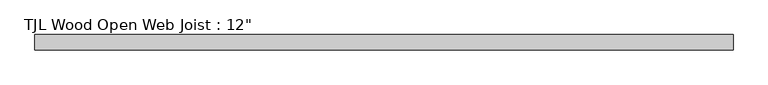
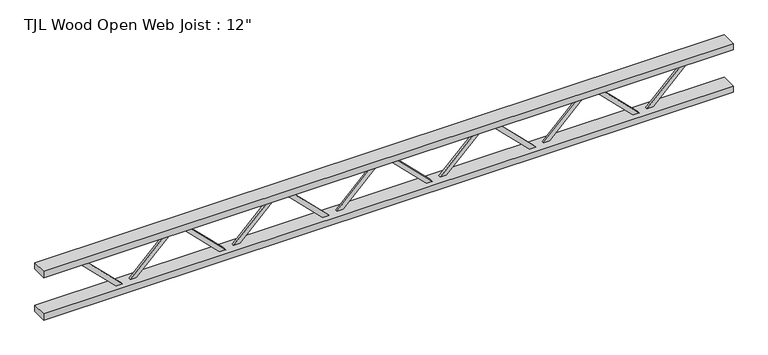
"""IFC4 building model written with IfcOpenShell, lengths in millimetres: beam geometry."""

from ifc_helpers import new_model, si_unit, frame, origin, place, context, project, spatial, polyline, outline, extrude, source, transform, mapped, element, save


def beam_852066e9(model_context):
    return source(origin(), model_context, "Body", "SweptSolid", [
        extrude(outline(polyline([(119.0625, 1212.85), (144.4625, 1212.85), (144.4625, 1194.9118146), (-119.0625, 929.7993146), (-119.0625, 884.2375), (-144.4625, 884.2375), (-144.4625, 940.2756854), (119.0625, 1205.3881854), (119.0625, 1212.85)])), frame((0.0, 0.0, 0.0), z_axis=(0.0, 1.0, 0.0), x_axis=(0.0, 0.0, 1.0)), (0.0, 0.0, 1.0), 12.7),
        extrude(outline(polyline([(144.4625, 606.425), (119.0625, 606.425), (119.0625, 613.8868146), (-144.4625, 878.9993146), (-144.4625, 935.0375), (-119.0625, 935.0375), (-119.0625, 889.4756854), (144.4625, 624.3631854), (144.4625, 606.425)])), frame((0.0, -12.7, 0.0), z_axis=(0.0, 1.0, 0.0), x_axis=(0.0, 0.0, 1.0)), (0.0, 0.0, 1.0), 12.7),
        extrude(outline(polyline([(119.0625, 606.425), (144.4625, 606.425), (144.4625, 588.4868146), (-119.0625, 323.3743146), (-119.0625, 277.8125), (-144.4625, 277.8125), (-144.4625, 333.8506854), (119.0625, 598.9631854), (119.0625, 606.425)])), frame((0.0, 0.0, 0.0), z_axis=(0.0, 1.0, 0.0), x_axis=(0.0, 0.0, 1.0)), (0.0, 0.0, 1.0), 12.7),
        extrude(outline(polyline([(144.4625, 0.0), (119.0625, 0.0), (119.0625, 7.4618146), (-144.4625, 272.5743146), (-144.4625, 328.6125), (-119.0625, 328.6125), (-119.0625, 283.0506854), (144.4625, 17.9381854), (144.4625, 0.0)])), frame((0.0, -12.7, 0.0), z_axis=(0.0, 1.0, 0.0), x_axis=(0.0, 0.0, 1.0)), (0.0, 0.0, 1.0), 12.7),
        extrude(outline(polyline([(119.0625, 0.0), (144.4625, 0.0), (144.4625, -17.9381854), (-119.0625, -283.0506854), (-119.0625, -328.6125), (-144.4625, -328.6125), (-144.4625, -272.5743146), (119.0625, -7.4618146), (119.0625, 0.0)])), frame((0.0, 0.0, 0.0), z_axis=(0.0, 1.0, 0.0), x_axis=(0.0, 0.0, 1.0)), (0.0, 0.0, 1.0), 12.7),
        extrude(outline(polyline([(144.4625, -606.425), (119.0625, -606.425), (119.0625, -598.9631854), (-144.4625, -333.8506854), (-144.4625, -277.8125), (-119.0625, -277.8125), (-119.0625, -323.3743146), (144.4625, -588.4868146), (144.4625, -606.425)])), frame((0.0, -12.7, 0.0), z_axis=(0.0, 1.0, 0.0), x_axis=(0.0, 0.0, 1.0)), (0.0, 0.0, 1.0), 12.7),
        extrude(outline(polyline([(119.0625, -606.425), (144.4625, -606.425), (144.4625, -624.3631854), (-119.0625, -889.4756854), (-119.0625, -935.0375), (-144.4625, -935.0375), (-144.4625, -878.9993146), (119.0625, -613.8868146), (119.0625, -606.425)])), frame((0.0, 0.0, 0.0), z_axis=(0.0, 1.0, 0.0), x_axis=(0.0, 0.0, 1.0)), (0.0, 0.0, 1.0), 12.7),
        extrude(outline(polyline([(144.4625, -1212.85), (119.0625, -1212.85), (119.0625, -1205.3881854), (-144.4625, -940.2756854), (-144.4625, -884.2375), (-119.0625, -884.2375), (-119.0625, -929.7993146), (144.4625, -1194.9118146), (144.4625, -1212.85)])), frame((0.0, -12.7, 0.0), z_axis=(0.0, 1.0, 0.0), x_axis=(0.0, 0.0, 1.0)), (0.0, 0.0, 1.0), 12.7),
        extrude(outline(polyline([(119.0625, 1819.275), (144.4625, 1819.275), (144.4625, 1801.3368146), (-119.0625, 1536.2243146), (-119.0625, 1490.6625), (-144.4625, 1490.6625), (-144.4625, 1546.7006854), (119.0625, 1811.8131854), (119.0625, 1819.275)])), frame((0.0, 0.0, 0.0), z_axis=(0.0, 1.0, 0.0), x_axis=(0.0, 0.0, 1.0)), (0.0, 0.0, 1.0), 12.7),
        extrude(outline(polyline([(144.4625, 1212.85), (119.0625, 1212.85), (119.0625, 1220.3118146), (-144.4625, 1485.4243146), (-144.4625, 1541.4625), (-119.0625, 1541.4625), (-119.0625, 1495.9006854), (144.4625, 1230.7881854), (144.4625, 1212.85)])), frame((0.0, -12.7, 0.0), z_axis=(0.0, 1.0, 0.0), x_axis=(0.0, 0.0, 1.0)), (0.0, 0.0, 1.0), 12.7),
        extrude(outline(polyline([(119.0625, -1212.85), (144.4625, -1212.85), (144.4625, -1230.7881854), (-119.0625, -1495.9006854), (-119.0625, -1541.4625), (-144.4625, -1541.4625), (-144.4625, -1485.4243146), (119.0625, -1220.3118146), (119.0625, -1212.85)])), frame((0.0, 0.0, 0.0), z_axis=(0.0, 1.0, 0.0), x_axis=(0.0, 0.0, 1.0)), (0.0, 0.0, 1.0), 12.7),
        extrude(outline(polyline([(144.4625, -1819.275), (119.0625, -1819.275), (119.0625, -1811.8131854), (-144.4625, -1546.7006854), (-144.4625, -1490.6625), (-119.0625, -1490.6625), (-119.0625, -1536.2243146), (144.4625, -1801.3368146), (144.4625, -1819.275)])), frame((0.0, -12.7, 0.0), z_axis=(0.0, 1.0, 0.0), x_axis=(0.0, 0.0, 1.0)), (0.0, 0.0, 1.0), 12.7),
        extrude(outline(polyline([(2022.475, 44.45), (2022.475, -44.45), (-2022.475, -44.45), (-2022.475, 44.45), (2022.475, 44.45)])), frame((0.0, 0.0, 112.7125), z_axis=(0.0, 0.0, 1.0), x_axis=(1.0, 0.0, 0.0)), (0.0, 0.0, 1.0), 38.1),
        extrude(outline(polyline([(2022.475, 44.45), (2022.475, -44.45), (-2022.475, -44.45), (-2022.475, 44.45), (2022.475, 44.45)])), frame((0.0, 0.0, -150.8125), z_axis=(0.0, 0.0, 1.0), x_axis=(1.0, 0.0, 0.0)), (0.0, 0.0, 1.0), 38.1),
    ])


if __name__ == "__main__":
    model = new_model("IFC4")
    model_context = context("Model", 3, world=origin())
    ifc_project = project(units=[si_unit("LENGTHUNIT", "METRE", prefix="MILLI")], contexts=[model_context])
    site = spatial("IfcSite", under=ifc_project)
    building = spatial("IfcBuilding", under=site)
    placement = place(None, origin())
    beam_shape = beam_852066e9(model_context)
    element("IfcBeam", 1, ObjectType="TJL Wood Open Web Joist : 12\"", at=placement, inside=building, context=model_context, shape_type="MappedRepresentation", body=[
        mapped(beam_shape, transform((0.0, 0.0, 0.0), x_axis=(1.0, 0.0, 0.0), y_axis=(0.0, 1.0, 0.0), z_axis=(0.0, 0.0, 1.0))),
    ])
    save(model, "model.ifc")
